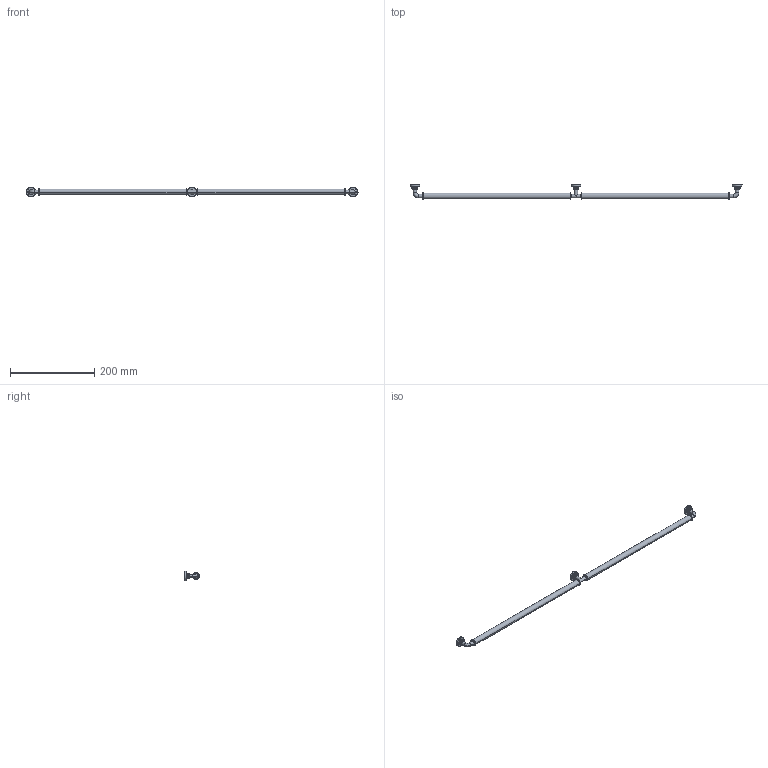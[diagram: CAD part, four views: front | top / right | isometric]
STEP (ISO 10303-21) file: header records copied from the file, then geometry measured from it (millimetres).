
FILE_DESCRIPTION( ( '' ), '1' );
FILE_NAME( 'D:/1.AUTOCAD EXPORT/Group 10/sheet_10_1/9132278.stp', '2013-10-21T06:40:55', ( '' ), ( '' ), ' ', ' ', ' ' );
FILE_SCHEMA( ( 'automotive_design' ) );
Length unit declared in the file: millimetre
Products named in the file (1): 1
Bounding box: 788 x 35 x 23 mm (x, y, z)
Volume: 120942.6 mm3; surface area: 38560.2 mm2
Topology: 1 solids, 1 shells, 138 faces, 329 edges, 199 vertices
Faces by surface type: torus 62, cone 36, cylinder 28, plane 12
Entity records: 7923 total; most frequent: DIRECTION 863, CARTESIAN_POINT 745, STYLED_ITEM 667, PRESENTATION_STYLE_ASSIGNMENT 667, COLOUR_RGB 667, ORIENTED_EDGE 658, AXIS2_PLACEMENT_3D 399, EDGE_CURVE 329
